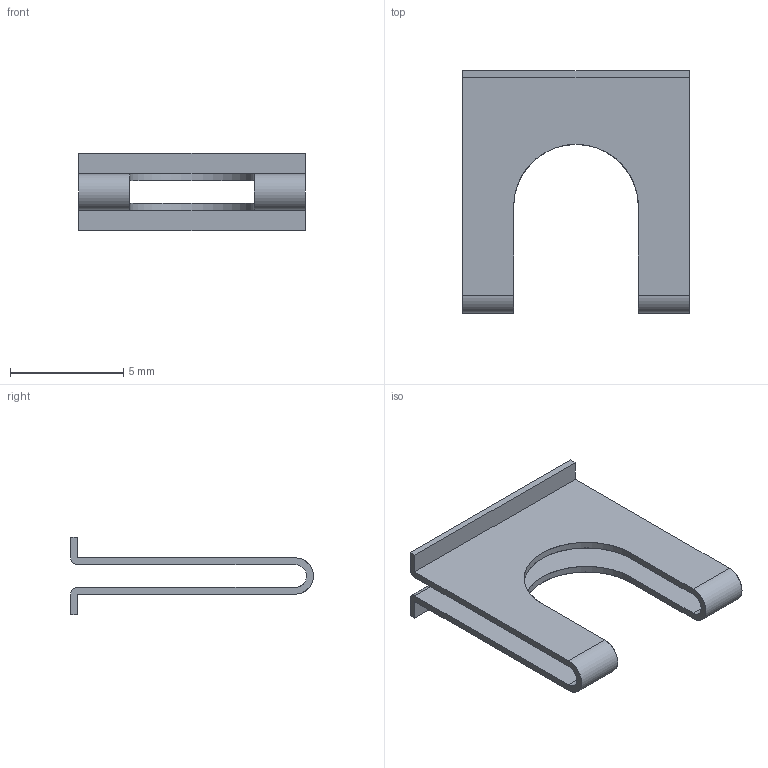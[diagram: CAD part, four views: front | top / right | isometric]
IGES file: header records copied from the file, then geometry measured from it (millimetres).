
Start section: --------------------------------------------------------------------- IGES file generated by CADlook_v12.0.  Visit http://www.cadlook.com for more information on CADlook translators and viewers. ---------------------------------------------------------------------
Global section: file name: D:\File_clienti\Brasile\Fischer\MOLL-01-A1.igs; native system: Cimatron E 9.0; preprocessor: CADlook_v12.0; author: aquintaba; organization: None; date: 20100422.125410; units: millimetre
Bounding box: 10 x 10.7 x 3.4 mm (x, y, z)
Surface area: 345.7 mm2 (no closed solid volume)
Topology: 0 solids, 0 shells, 22 faces, 153 edges, 162 vertices
Faces by surface type: bspline 14, revolution 8
